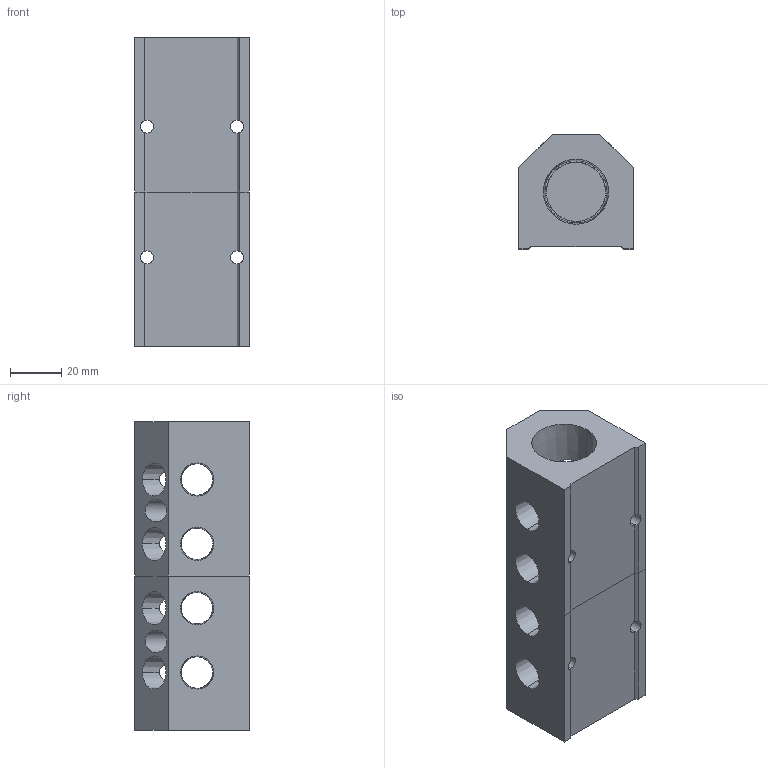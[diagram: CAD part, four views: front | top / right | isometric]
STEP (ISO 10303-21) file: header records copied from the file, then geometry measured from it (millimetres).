
FILE_DESCRIPTION (( 'STEP AP214' ), '1' );
FILE_NAME ('ALM4ABCDE-N4N12-120RB.step', '2022-02-06T14:18:36', ( '' ), ( '' ), 'SwSTEP 2.0', 'SolidWorks 2020', '' );
FILE_SCHEMA (( 'AUTOMOTIVE_DESIGN' ));
Length unit declared in the file: millimetre
Products named in the file (1): ALM4ABCDE-N4N12-120RB
Bounding box: 44.5 x 44.5 x 120 mm (x, y, z)
Volume: 130632.9 mm3; surface area: 41265.7 mm2
Topology: 2 solids, 2 shells, 438 faces, 1234 edges, 820 vertices
Faces by surface type: plane 280, bspline 64, cone 54, cylinder 40
Entity records: 24030 total; most frequent: CARTESIAN_POINT 9155, ORIENTED_EDGE 2468, DIRECTION 1768, EDGE_CURVE 1234, VERTEX_POINT 820, VECTOR 794, LINE 794, EDGE_LOOP 506
